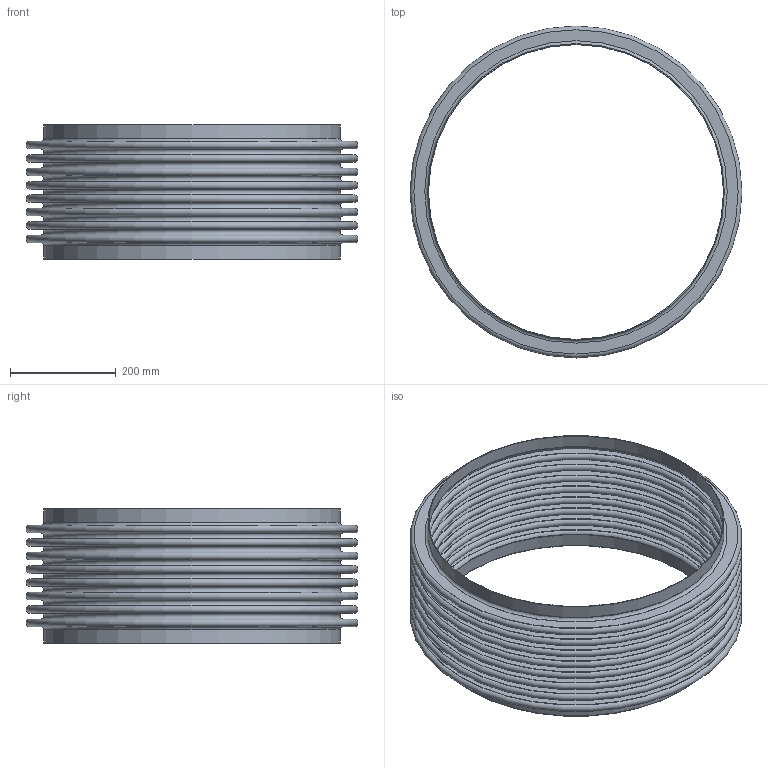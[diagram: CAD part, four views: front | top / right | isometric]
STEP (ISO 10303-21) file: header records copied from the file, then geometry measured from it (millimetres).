
FILE_DESCRIPTION(/* description */ ('STOCK BELLOWS: U.S-22-8-150S, 22.000 I.D., 24.750 O.D., 1 PLY, 16 GA (0.060 THICK), 8 CONS., 1.000 PITCH, 1.000 TANGENT. '),/* implementation_level */ '2;1');
FILE_NAME(/* name */ 'STOCK BELLOW - US-22-8-150S.stp',/* time_stamp */ '2026-07-21T13:06:36-05:00',/* author */ ('KennethB'),/* organization */ (''),/* preprocessor_version */ 'ST-DEVELOPER v20.1',/* originating_system */ 'Autodesk Inventor 2026',/* authorisation */ '');
FILE_SCHEMA (('AUTOMOTIVE_DESIGN { 1 0 10303 214 3 1 1 }'));
Length unit declared in the file: inch
Products named in the file (1): STOCK BELLOW - US-22-8-150S
Bounding box: 628.65 x 628.65 x 254 mm (x, y, z)
Volume: 1985132.8 mm3; surface area: 2621257.4 mm2
Topology: 3 solids, 3 shells, 76 faces, 114 edges, 77 vertices
Faces by surface type: plane 38, torus 34, cylinder 4
Full cylindrical faces by diameter (mm): 558.8 x2, 561.848 x2
Entity records: 1814 total; most frequent: DIRECTION 378, CARTESIAN_POINT 268, ORIENTED_EDGE 228, AXIS2_PLACEMENT_3D 187, EDGE_LOOP 114, EDGE_CURVE 114, CIRCLE 110, FACE_OUTER_BOUND 76
